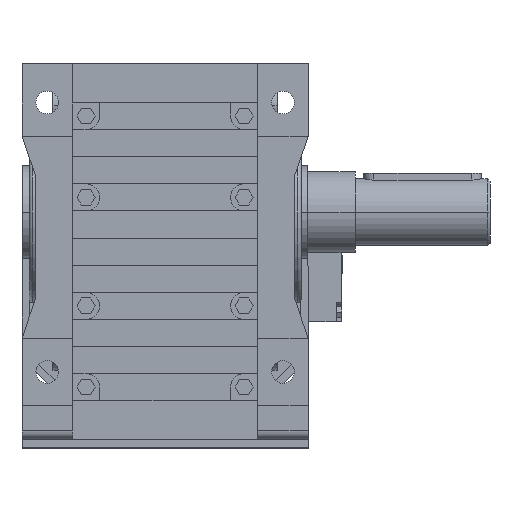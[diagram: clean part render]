
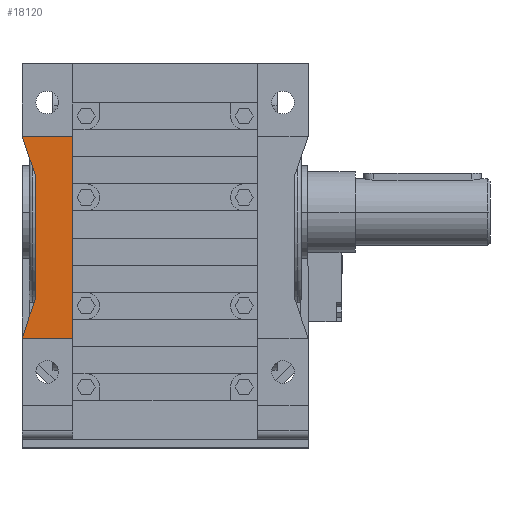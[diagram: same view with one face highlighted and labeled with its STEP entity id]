
A CAD part, top view. The second image highlights one B-rep face of the part: STEP entity #18120.
In plain terms, the highlighted planar face has unit normal (0, 0, 1).
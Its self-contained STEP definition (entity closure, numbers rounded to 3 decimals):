
#2254 = VERTEX_POINT('',#2255);
#2255 = CARTESIAN_POINT('',(-85.,-75.,87.55));
#2269 = PLANE('',#2270);
#2270 = AXIS2_PLACEMENT_3D('',#2271,#2272,#2273);
#2271 = CARTESIAN_POINT('',(-85.,-75.,90.));
#2272 = DIRECTION('',(-0.946,0.325,0.));
#2273 = DIRECTION('',(-0.325,-0.946,0.));
#2677 = PLANE('',#2678);
#2678 = AXIS2_PLACEMENT_3D('',#2679,#2680,#2681);
#2679 = CARTESIAN_POINT('',(85.,-75.,90.));
#2680 = DIRECTION('',(0.,-1.,0.));
#2681 = DIRECTION('',(0.,0.,-1.));
#5712 = PLANE('',#5713);
#5713 = AXIS2_PLACEMENT_3D('',#5714,#5715,#5716);
#5714 = CARTESIAN_POINT('',(-76.75,-51.,90.));
#5715 = DIRECTION('',(-1.,0.,0.));
#5716 = DIRECTION('',(0.,0.,1.));
#5740 = PLANE('',#5741);
#5741 = AXIS2_PLACEMENT_3D('',#5742,#5743,#5744);
#5742 = CARTESIAN_POINT('',(-76.75,21.,90.));
#5743 = DIRECTION('',(-0.946,-0.325,0.));
#5744 = DIRECTION('',(0.325,-0.946,0.));
#8233 = PLANE('',#8234);
#8234 = AXIS2_PLACEMENT_3D('',#8235,#8236,#8237);
#8235 = CARTESIAN_POINT('',(-55.,88.,75.55));
#8236 = DIRECTION('',(-1.,0.,0.));
#8237 = DIRECTION('',(0.,0.,1.));
#8363 = VERTEX_POINT('',#8364);
#8364 = CARTESIAN_POINT('',(-55.,-75.,87.55));
#8385 = EDGE_CURVE('',#8363,#2254,#8386,.T.);
#8386 = SURFACE_CURVE('',#8387,(#8391,#8398),.PCURVE_S1.);
#8387 = LINE('',#8388,#8389);
#8388 = CARTESIAN_POINT('',(85.,-75.,87.55));
#8389 = VECTOR('',#8390,1.);
#8390 = DIRECTION('',(-1.,0.,0.));
#8391 = PCURVE('',#2677,#8392);
#8392 = DEFINITIONAL_REPRESENTATION('',(#8393),#8397);
#8393 = LINE('',#8394,#8395);
#8394 = CARTESIAN_POINT('',(2.45,0.));
#8395 = VECTOR('',#8396,1.);
#8396 = DIRECTION('',(0.,-1.));
#8397 = ( GEOMETRIC_REPRESENTATION_CONTEXT(2) 
PARAMETRIC_REPRESENTATION_CONTEXT() REPRESENTATION_CONTEXT('2D SPACE',''
  ) );
#8398 = PCURVE('',#8399,#8404);
#8399 = PLANE('',#8400);
#8400 = AXIS2_PLACEMENT_3D('',#8401,#8402,#8403);
#8401 = CARTESIAN_POINT('',(85.,45.,87.55));
#8402 = DIRECTION('',(0.,0.,-1.));
#8403 = DIRECTION('',(0.,1.,0.));
#8404 = DEFINITIONAL_REPRESENTATION('',(#8405),#8409);
#8405 = LINE('',#8406,#8407);
#8406 = CARTESIAN_POINT('',(-120.,0.));
#8407 = VECTOR('',#8408,1.);
#8408 = DIRECTION('',(0.,-1.));
#8409 = ( GEOMETRIC_REPRESENTATION_CONTEXT(2) 
PARAMETRIC_REPRESENTATION_CONTEXT() REPRESENTATION_CONTEXT('2D SPACE',''
  ) );
#8826 = EDGE_CURVE('',#2254,#8827,#8829,.T.);
#8827 = VERTEX_POINT('',#8828);
#8828 = CARTESIAN_POINT('',(-76.75,-51.,87.55));
#8829 = SURFACE_CURVE('',#8830,(#8834,#8841),.PCURVE_S1.);
#8830 = LINE('',#8831,#8832);
#8831 = CARTESIAN_POINT('',(-30.144,84.581,87.55));
#8832 = VECTOR('',#8833,1.);
#8833 = DIRECTION('',(0.325,0.946,0.)
  );
#8834 = PCURVE('',#2269,#8835);
#8835 = DEFINITIONAL_REPRESENTATION('',(#8836),#8840);
#8836 = LINE('',#8837,#8838);
#8837 = CARTESIAN_POINT('',(-168.746,-2.45));
#8838 = VECTOR('',#8839,1.);
#8839 = DIRECTION('',(-1.,0.));
#8840 = ( GEOMETRIC_REPRESENTATION_CONTEXT(2) 
PARAMETRIC_REPRESENTATION_CONTEXT() REPRESENTATION_CONTEXT('2D SPACE',''
  ) );
#8841 = PCURVE('',#8399,#8842);
#8842 = DEFINITIONAL_REPRESENTATION('',(#8843),#8847);
#8843 = LINE('',#8844,#8845);
#8844 = CARTESIAN_POINT('',(39.581,-115.144));
#8845 = VECTOR('',#8846,1.);
#8846 = DIRECTION('',(0.946,0.325));
#8847 = ( GEOMETRIC_REPRESENTATION_CONTEXT(2) 
PARAMETRIC_REPRESENTATION_CONTEXT() REPRESENTATION_CONTEXT('2D SPACE',''
  ) );
#11087 = EDGE_CURVE('',#11088,#11090,#11092,.T.);
#11088 = VERTEX_POINT('',#11089);
#11089 = CARTESIAN_POINT('',(-76.75,21.,87.55));
#11090 = VERTEX_POINT('',#11091);
#11091 = CARTESIAN_POINT('',(-85.,45.,87.55));
#11092 = SURFACE_CURVE('',#11093,(#11097,#11104),.PCURVE_S1.);
#11093 = LINE('',#11094,#11095);
#11094 = CARTESIAN_POINT('',(-67.035,-7.262,87.55));
#11095 = VECTOR('',#11096,1.);
#11096 = DIRECTION('',(-0.325,0.946,
    0.));
#11097 = PCURVE('',#5740,#11098);
#11098 = DEFINITIONAL_REPRESENTATION('',(#11099),#11103);
#11099 = LINE('',#11100,#11101);
#11100 = CARTESIAN_POINT('',(29.885,-2.45));
#11101 = VECTOR('',#11102,1.);
#11102 = DIRECTION('',(-1.,0.));
#11103 = ( GEOMETRIC_REPRESENTATION_CONTEXT(2) 
PARAMETRIC_REPRESENTATION_CONTEXT() REPRESENTATION_CONTEXT('2D SPACE',''
  ) );
#11104 = PCURVE('',#8399,#11105);
#11105 = DEFINITIONAL_REPRESENTATION('',(#11106),#11110);
#11106 = LINE('',#11107,#11108);
#11107 = CARTESIAN_POINT('',(-52.262,-152.035));
#11108 = VECTOR('',#11109,1.);
#11109 = DIRECTION('',(0.946,-0.325));
#11110 = ( GEOMETRIC_REPRESENTATION_CONTEXT(2) 
PARAMETRIC_REPRESENTATION_CONTEXT() REPRESENTATION_CONTEXT('2D SPACE',''
  ) );
#12047 = EDGE_CURVE('',#8827,#11088,#12048,.T.);
#12048 = SURFACE_CURVE('',#12049,(#12053,#12060),.PCURVE_S1.);
#12049 = LINE('',#12050,#12051);
#12050 = CARTESIAN_POINT('',(-76.75,45.,87.55));
#12051 = VECTOR('',#12052,1.);
#12052 = DIRECTION('',(0.,1.,0.));
#12053 = PCURVE('',#5712,#12054);
#12054 = DEFINITIONAL_REPRESENTATION('',(#12055),#12059);
#12055 = LINE('',#12056,#12057);
#12056 = CARTESIAN_POINT('',(-2.45,96.));
#12057 = VECTOR('',#12058,1.);
#12058 = DIRECTION('',(0.,1.));
#12059 = ( GEOMETRIC_REPRESENTATION_CONTEXT(2) 
PARAMETRIC_REPRESENTATION_CONTEXT() REPRESENTATION_CONTEXT('2D SPACE',''
  ) );
#12060 = PCURVE('',#8399,#12061);
#12061 = DEFINITIONAL_REPRESENTATION('',(#12062),#12066);
#12062 = LINE('',#12063,#12064);
#12063 = CARTESIAN_POINT('',(0.,-161.75));
#12064 = VECTOR('',#12065,1.);
#12065 = DIRECTION('',(1.,0.));
#12066 = ( GEOMETRIC_REPRESENTATION_CONTEXT(2) 
PARAMETRIC_REPRESENTATION_CONTEXT() REPRESENTATION_CONTEXT('2D SPACE',''
  ) );
#12091 = PLANE('',#12092);
#12092 = AXIS2_PLACEMENT_3D('',#12093,#12094,#12095);
#12093 = CARTESIAN_POINT('',(85.,45.,90.));
#12094 = DIRECTION('',(0.,1.,0.));
#12095 = DIRECTION('',(0.,0.,1.));
#18050 = VERTEX_POINT('',#18051);
#18051 = CARTESIAN_POINT('',(-55.,45.,87.55));
#18072 = EDGE_CURVE('',#8363,#18050,#18073,.T.);
#18073 = SURFACE_CURVE('',#18074,(#18078,#18085),.PCURVE_S1.);
#18074 = LINE('',#18075,#18076);
#18075 = CARTESIAN_POINT('',(-55.,45.,87.55));
#18076 = VECTOR('',#18077,1.);
#18077 = DIRECTION('',(0.,1.,0.));
#18078 = PCURVE('',#8233,#18079);
#18079 = DEFINITIONAL_REPRESENTATION('',(#18080),#18084);
#18080 = LINE('',#18081,#18082);
#18081 = CARTESIAN_POINT('',(12.,-43.));
#18082 = VECTOR('',#18083,1.);
#18083 = DIRECTION('',(0.,1.));
#18084 = ( GEOMETRIC_REPRESENTATION_CONTEXT(2) 
PARAMETRIC_REPRESENTATION_CONTEXT() REPRESENTATION_CONTEXT('2D SPACE',''
  ) );
#18085 = PCURVE('',#8399,#18086);
#18086 = DEFINITIONAL_REPRESENTATION('',(#18087),#18091);
#18087 = LINE('',#18088,#18089);
#18088 = CARTESIAN_POINT('',(0.,-140.));
#18089 = VECTOR('',#18090,1.);
#18090 = DIRECTION('',(1.,0.));
#18091 = ( GEOMETRIC_REPRESENTATION_CONTEXT(2) 
PARAMETRIC_REPRESENTATION_CONTEXT() REPRESENTATION_CONTEXT('2D SPACE',''
  ) );
#18120 = ADVANCED_FACE('',(#18121),#8399,.F.);
#18121 = FACE_BOUND('',#18122,.T.);
#18122 = EDGE_LOOP('',(#18123,#18124,#18125,#18146,#18147,#18148));
#18123 = ORIENTED_EDGE('',*,*,#8385,.F.);
#18124 = ORIENTED_EDGE('',*,*,#18072,.T.);
#18125 = ORIENTED_EDGE('',*,*,#18126,.T.);
#18126 = EDGE_CURVE('',#18050,#11090,#18127,.T.);
#18127 = SURFACE_CURVE('',#18128,(#18132,#18139),.PCURVE_S1.);
#18128 = LINE('',#18129,#18130);
#18129 = CARTESIAN_POINT('',(85.,45.,87.55));
#18130 = VECTOR('',#18131,1.);
#18131 = DIRECTION('',(-1.,0.,0.));
#18132 = PCURVE('',#8399,#18133);
#18133 = DEFINITIONAL_REPRESENTATION('',(#18134),#18138);
#18134 = LINE('',#18135,#18136);
#18135 = CARTESIAN_POINT('',(0.,0.));
#18136 = VECTOR('',#18137,1.);
#18137 = DIRECTION('',(0.,-1.));
#18138 = ( GEOMETRIC_REPRESENTATION_CONTEXT(2) 
PARAMETRIC_REPRESENTATION_CONTEXT() REPRESENTATION_CONTEXT('2D SPACE',''
  ) );
#18139 = PCURVE('',#12091,#18140);
#18140 = DEFINITIONAL_REPRESENTATION('',(#18141),#18145);
#18141 = LINE('',#18142,#18143);
#18142 = CARTESIAN_POINT('',(-2.45,0.));
#18143 = VECTOR('',#18144,1.);
#18144 = DIRECTION('',(0.,-1.));
#18145 = ( GEOMETRIC_REPRESENTATION_CONTEXT(2) 
PARAMETRIC_REPRESENTATION_CONTEXT() REPRESENTATION_CONTEXT('2D SPACE',''
  ) );
#18146 = ORIENTED_EDGE('',*,*,#11087,.F.);
#18147 = ORIENTED_EDGE('',*,*,#12047,.F.);
#18148 = ORIENTED_EDGE('',*,*,#8826,.F.);
